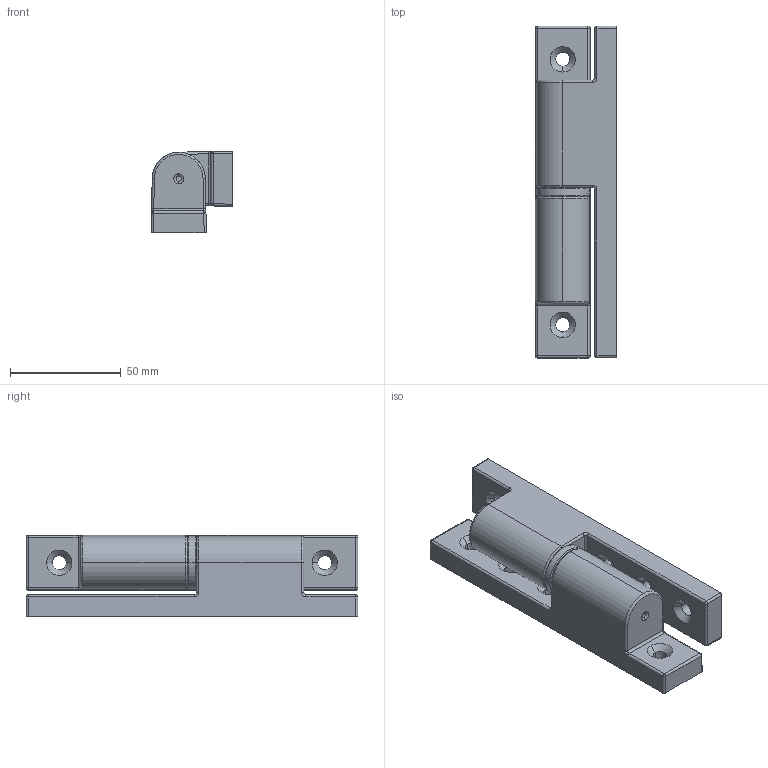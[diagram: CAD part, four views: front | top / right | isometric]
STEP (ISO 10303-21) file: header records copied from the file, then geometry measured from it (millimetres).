
FILE_DESCRIPTION (( 'STEP AP214' ), '1' );
FILE_NAME ('SK2-716.STEP', '2020-03-26T02:27:40', ( 'admin' ), ( 'Microsoft' ), 'SwSTEP 2.0', 'SolidWorks 2018', '' );
FILE_SCHEMA (( 'AUTOMOTIVE_DESIGN' ));
Length unit declared in the file: millimetre
Products named in the file (4): 2-716-F2; 2-716-F3; 2-716-F1; SK2-716
Assembly tree (4 placements, depth 2):
  SK2-716
    2-716-F1  x2
    2-716-F3
    2-716-F2
Bounding box: 37 x 150 x 37 mm (x, y, z)
Volume: 72841.7 mm3; surface area: 47646.8 mm2
Topology: 4 solids, 4 shells, 442 faces, 1120 edges, 674 vertices
Faces by surface type: cylinder 170, plane 146, cone 52, torus 34, sphere 24, bspline 16
Entity records: 7191 total; most frequent: CARTESIAN_POINT 1581, DIRECTION 1195, ORIENTED_EDGE 1130, EDGE_CURVE 565, AXIS2_PLACEMENT_3D 461, VERTEX_POINT 347, LINE 273, VECTOR 273
